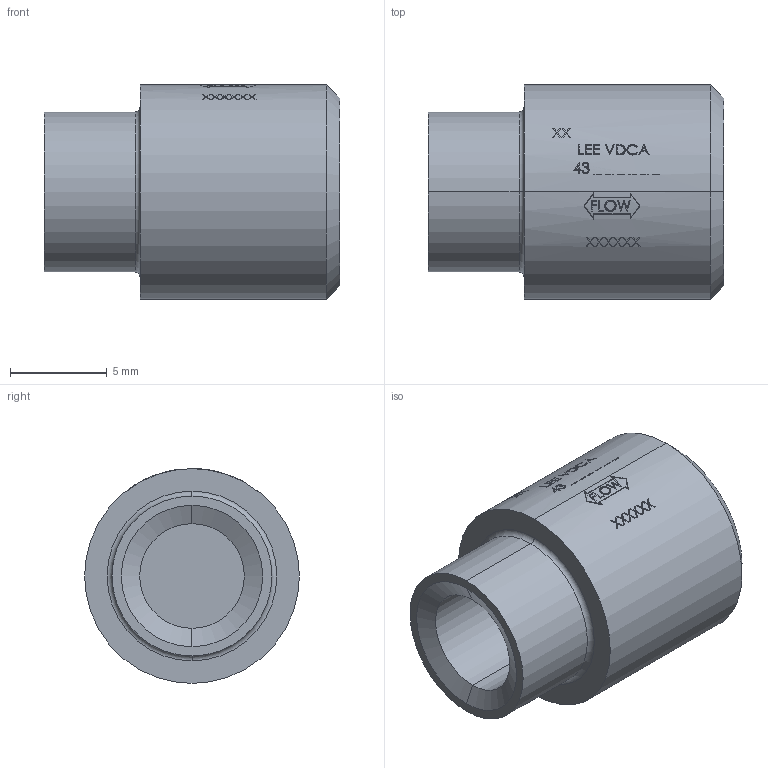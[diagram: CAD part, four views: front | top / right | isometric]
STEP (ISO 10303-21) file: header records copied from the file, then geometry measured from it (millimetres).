
FILE_DESCRIPTION (( 'STEP AP214' ), '1' );
FILE_NAME ('VDCA43------.STEP', '2021-04-20T12:21:45', ( '' ), ( '' ), 'SwSTEP 2.0', 'SolidWorks 2019', '' );
FILE_SCHEMA (( 'AUTOMOTIVE_DESIGN' ));
Length unit declared in the file: inch
Products named in the file (1): VDCA43------
Bounding box: 15.28 x 11.1 x 11.1 mm (x, y, z)
Volume: 983.1 mm3; surface area: 848.2 mm2
Topology: 1 solids, 1 shells, 343 faces, 905 edges, 600 vertices
Faces by surface type: plane 160, bspline 132, cylinder 41, cone 8, torus 2
Entity records: 16558 total; most frequent: CARTESIAN_POINT 5049, ORIENTED_EDGE 1810, DIRECTION 1015, EDGE_CURVE 905, VERTEX_POINT 600, B_SPLINE_CURVE_WITH_KNOTS 452, EDGE_LOOP 379, AXIS2_PLACEMENT_3D 350
